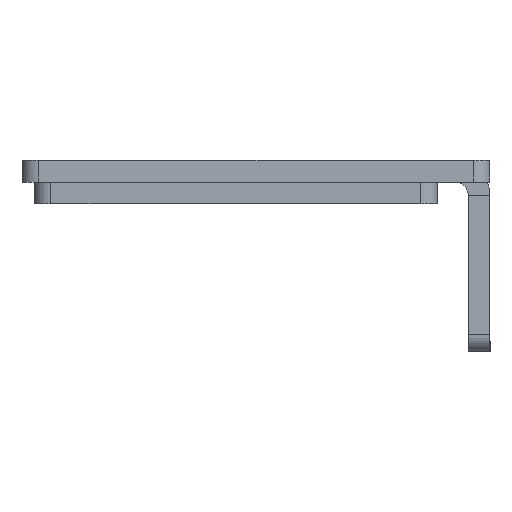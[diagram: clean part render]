
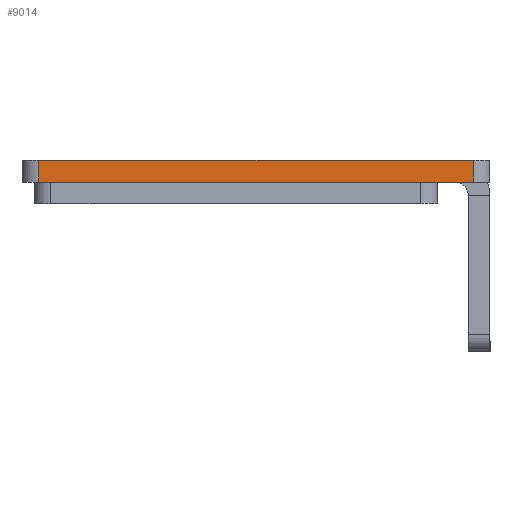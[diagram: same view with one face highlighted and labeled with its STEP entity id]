
A CAD part, left-side view. The second image highlights one B-rep face of the part: STEP entity #9014.
In plain terms, the highlighted planar face has unit normal (-1, 0, 0).
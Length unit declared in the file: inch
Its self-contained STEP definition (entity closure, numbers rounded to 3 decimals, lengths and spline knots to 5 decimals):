
#4 = EDGE_CURVE ( 'NONE', #6710, #5950, #5561, .T. ) ;
#447 = CARTESIAN_POINT ( 'NONE',  ( -9.49, 0.8075, 0.081 ) ) ;
#882 = ORIENTED_EDGE ( 'NONE', *, *, #2080, .T. ) ;
#1523 = EDGE_CURVE ( 'NONE', #5049, #5361, #9072, .T. ) ;
#1530 = PLANE ( 'NONE',  #8971 ) ;
#2019 = DIRECTION ( 'NONE',  ( 0., -1., 0. ) ) ;
#2080 = EDGE_CURVE ( 'NONE', #5361, #6710, #7889, .T. ) ;
#2228 = CARTESIAN_POINT ( 'NONE',  ( -9.49, -0.8075, 0.081 ) ) ;
#2755 = DIRECTION ( 'NONE',  ( 1., 0., 0. ) ) ;
#2800 = DIRECTION ( 'NONE',  ( 0., 0., -1. ) ) ;
#3412 = ORIENTED_EDGE ( 'NONE', *, *, #4, .T. ) ;
#3926 = VECTOR ( 'NONE', #4275, 39.37008 ) ;
#4007 = VECTOR ( 'NONE', #2019, 39.37008 ) ;
#4070 = CARTESIAN_POINT ( 'NONE',  ( -9.49, -0.8075, 0. ) ) ;
#4275 = DIRECTION ( 'NONE',  ( 0., 0., 1. ) ) ;
#4916 = CARTESIAN_POINT ( 'NONE',  ( -9.49, 0.8075, 0. ) ) ;
#4920 = CARTESIAN_POINT ( 'NONE',  ( -9.49, 0.87, 0.081 ) ) ;
#5049 = VERTEX_POINT ( 'NONE', #447 ) ;
#5361 = VERTEX_POINT ( 'NONE', #4916 ) ;
#5416 = CARTESIAN_POINT ( 'NONE',  ( -9.49, 0.87, 0.081 ) ) ;
#5472 = DIRECTION ( 'NONE',  ( 0., 0., -1. ) ) ;
#5561 = LINE ( 'NONE', #6267, #3926 ) ;
#5851 = CARTESIAN_POINT ( 'NONE',  ( -9.49, 0.87, 0. ) ) ;
#5950 = VERTEX_POINT ( 'NONE', #2228 ) ;
#6041 = ORIENTED_EDGE ( 'NONE', *, *, #7897, .F. ) ;
#6267 = CARTESIAN_POINT ( 'NONE',  ( -9.49, -0.8075, 0.081 ) ) ;
#6399 = VECTOR ( 'NONE', #7028, 39.37008 ) ;
#6710 = VERTEX_POINT ( 'NONE', #4070 ) ;
#6896 = EDGE_LOOP ( 'NONE', ( #6041, #7310, #882, #3412 ) ) ;
#7028 = DIRECTION ( 'NONE',  ( 0., -1., 0. ) ) ;
#7143 = LINE ( 'NONE', #4920, #4007 ) ;
#7310 = ORIENTED_EDGE ( 'NONE', *, *, #1523, .T. ) ;
#7567 = CARTESIAN_POINT ( 'NONE',  ( -9.49, 0.8075, 0.081 ) ) ;
#7889 = LINE ( 'NONE', #5851, #6399 ) ;
#7897 = EDGE_CURVE ( 'NONE', #5049, #5950, #7143, .T. ) ;
#7984 = FACE_OUTER_BOUND ( 'NONE', #6896, .T. ) ;
#8971 = AXIS2_PLACEMENT_3D ( 'NONE', #5416, #2755, #2800 ) ;
#9014 = ADVANCED_FACE ( 'NONE', ( #7984 ), #1530, .F. ) ;
#9051 = VECTOR ( 'NONE', #5472, 39.37008 ) ;
#9072 = LINE ( 'NONE', #7567, #9051 ) ;
